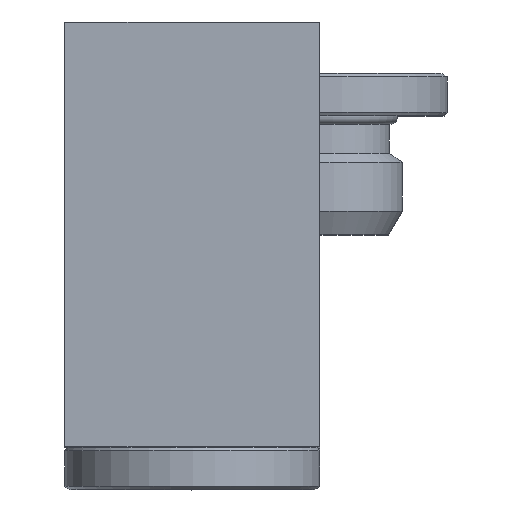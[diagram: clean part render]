
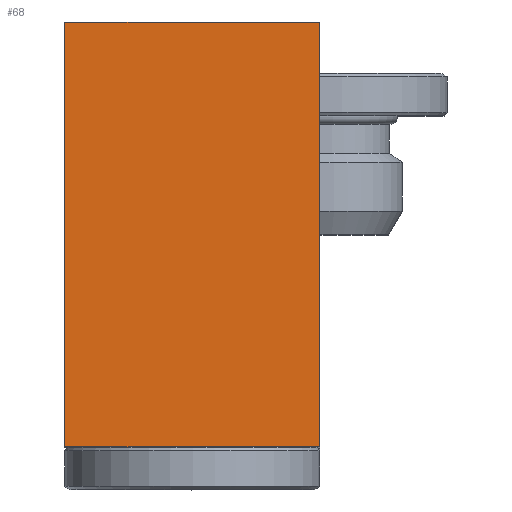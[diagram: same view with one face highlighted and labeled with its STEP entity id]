
A CAD part, top view. The second image highlights one B-rep face of the part: STEP entity #68.
In plain terms, the highlighted planar face has unit normal (0, 0, 1).
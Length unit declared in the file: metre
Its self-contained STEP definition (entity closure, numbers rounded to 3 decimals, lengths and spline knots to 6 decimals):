
#68 = ADVANCED_FACE( '', ( #133 ), #134, .F. );
#133 = FACE_OUTER_BOUND( '', #213, .T. );
#134 = PLANE( '', #214 );
#213 = EDGE_LOOP( '', ( #344, #345, #346, #347 ) );
#214 = AXIS2_PLACEMENT_3D( '', #348, #349, #350 );
#344 = ORIENTED_EDGE( '', *, *, #586, .T. );
#345 = ORIENTED_EDGE( '', *, *, #587, .F. );
#346 = ORIENTED_EDGE( '', *, *, #588, .F. );
#347 = ORIENTED_EDGE( '', *, *, #583, .T. );
#348 = CARTESIAN_POINT( '', ( -0.015, -0.0125, 0.0175 ) );
#349 = DIRECTION( '', ( 0., 0., -1. ) );
#350 = DIRECTION( '', ( -1., 0., 0. ) );
#583 = EDGE_CURVE( '', #753, #751, #754, .T. );
#586 = EDGE_CURVE( '', #751, #757, #758, .T. );
#587 = EDGE_CURVE( '', #759, #757, #760, .T. );
#588 = EDGE_CURVE( '', #753, #759, #761, .T. );
#751 = VERTEX_POINT( '', #1120 );
#753 = VERTEX_POINT( '', #1123 );
#754 = LINE( '', #1124, #1125 );
#757 = VERTEX_POINT( '', #1129 );
#758 = LINE( '', #1130, #1131 );
#759 = VERTEX_POINT( '', #1132 );
#760 = LINE( '', #1133, #1134 );
#761 = LINE( '', #1135, #1136 );
#1120 = CARTESIAN_POINT( '', ( 0., -0.0125, 0.0175 ) );
#1123 = CARTESIAN_POINT( '', ( -0.015, -0.0125, 0.0175 ) );
#1124 = CARTESIAN_POINT( '', ( -0.015, -0.0125, 0.0175 ) );
#1125 = VECTOR( '', #1301, 1. );
#1129 = CARTESIAN_POINT( '', ( 0., 0.0125, 0.0175 ) );
#1130 = CARTESIAN_POINT( '', ( 0., -0.0125, 0.0175 ) );
#1131 = VECTOR( '', #1303, 1. );
#1132 = CARTESIAN_POINT( '', ( -0.015, 0.0125, 0.0175 ) );
#1133 = CARTESIAN_POINT( '', ( -0.015, 0.0125, 0.0175 ) );
#1134 = VECTOR( '', #1304, 1. );
#1135 = CARTESIAN_POINT( '', ( -0.015, -0.0125, 0.0175 ) );
#1136 = VECTOR( '', #1305, 1. );
#1301 = DIRECTION( '', ( 1., 0., 0. ) );
#1303 = DIRECTION( '', ( 0., 1., 0. ) );
#1304 = DIRECTION( '', ( 1., 0., 0. ) );
#1305 = DIRECTION( '', ( 0., 1., 0. ) );
